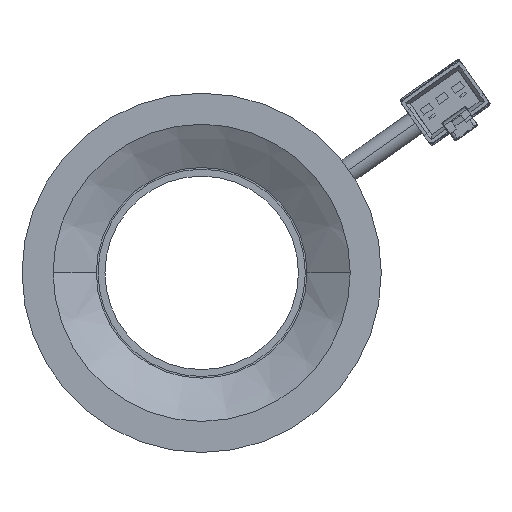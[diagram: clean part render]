
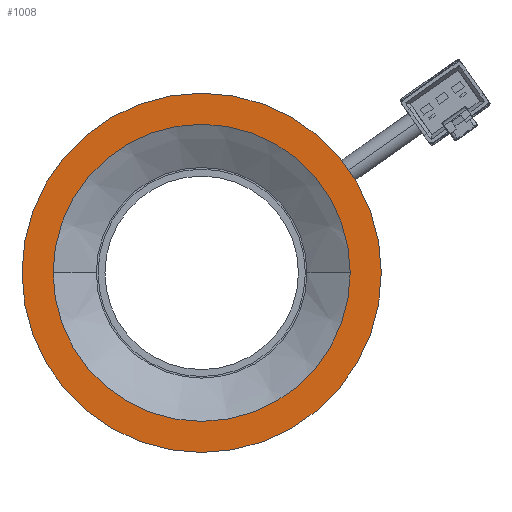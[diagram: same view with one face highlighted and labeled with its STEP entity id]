
A CAD part, front view. The second image highlights one B-rep face of the part: STEP entity #1008.
In plain terms, the highlighted planar face has unit normal (0, -1, 0).
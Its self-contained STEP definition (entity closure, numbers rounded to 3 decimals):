
#281=CARTESIAN_POINT('',(0.,-20.,0.));
#282=DIRECTION('',(0.,1.,0.));
#283=DIRECTION('',(1.,0.,0.));
#284=AXIS2_PLACEMENT_3D('',#281,#282,#283);
#286=CARTESIAN_POINT('',(0.,-20.,0.));
#287=DIRECTION('',(0.,1.,0.));
#288=DIRECTION('',(-1.,0.,0.));
#289=AXIS2_PLACEMENT_3D('',#286,#287,#288);
#291=CARTESIAN_POINT('',(0.,-20.,0.));
#292=DIRECTION('',(0.,-1.,0.));
#293=DIRECTION('',(1.,0.,0.));
#294=AXIS2_PLACEMENT_3D('',#291,#292,#293);
#296=CARTESIAN_POINT('',(0.,-20.,0.));
#297=DIRECTION('',(0.,-1.,0.));
#298=DIRECTION('',(-1.,0.,0.));
#299=AXIS2_PLACEMENT_3D('',#296,#297,#298);
#535=CARTESIAN_POINT('',(-26.,-20.,0.));
#536=VERTEX_POINT('',#535);
#537=CARTESIAN_POINT('',(26.,-20.,0.));
#538=VERTEX_POINT('',#537);
#539=CARTESIAN_POINT('',(21.5,-20.,0.));
#540=CARTESIAN_POINT('',(-21.5,-20.,0.));
#541=VERTEX_POINT('',#539);
#542=VERTEX_POINT('',#540);
#993=CARTESIAN_POINT('',(0.,-20.,0.));
#994=DIRECTION('',(0.,1.,0.));
#995=DIRECTION('',(1.,0.,0.));
#996=AXIS2_PLACEMENT_3D('',#993,#994,#995);
#997=PLANE('',#996);
#998=ORIENTED_EDGE('',*,*,#986,.T.);
#999=ORIENTED_EDGE('',*,*,#975,.T.);
#1000=EDGE_LOOP('',(#998,#999));
#1001=FACE_OUTER_BOUND('',#1000,.F.);
#1003=ORIENTED_EDGE('',*,*,#1002,.T.);
#1005=ORIENTED_EDGE('',*,*,#1004,.T.);
#1006=EDGE_LOOP('',(#1003,#1005));
#1007=FACE_BOUND('',#1006,.F.);
#285=CIRCLE('',#284,26.);
#290=CIRCLE('',#289,26.);
#295=CIRCLE('',#294,21.5);
#300=CIRCLE('',#299,21.5);
#975=EDGE_CURVE('',#536,#538,#290,.T.);
#986=EDGE_CURVE('',#538,#536,#285,.T.);
#1002=EDGE_CURVE('',#541,#542,#295,.T.);
#1004=EDGE_CURVE('',#542,#541,#300,.T.);
#1008=ADVANCED_FACE('',(#1001,#1007),#997,.F.);
